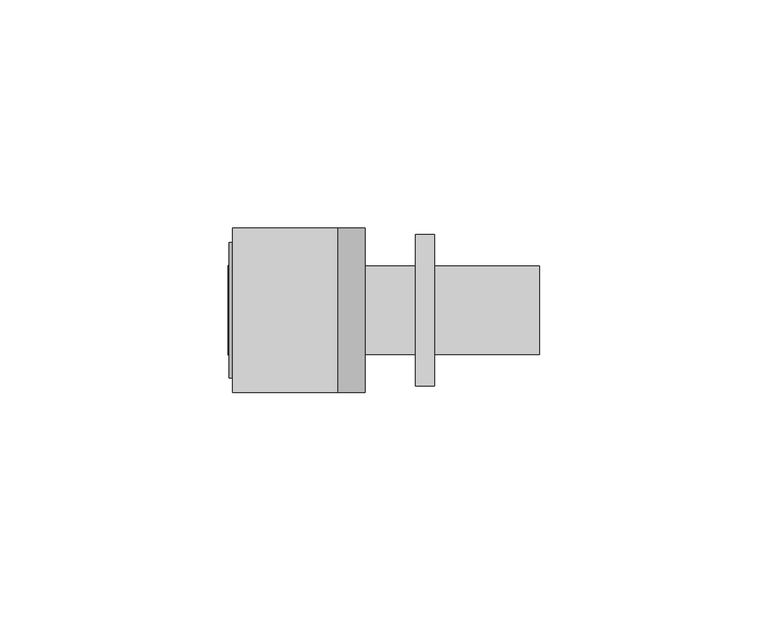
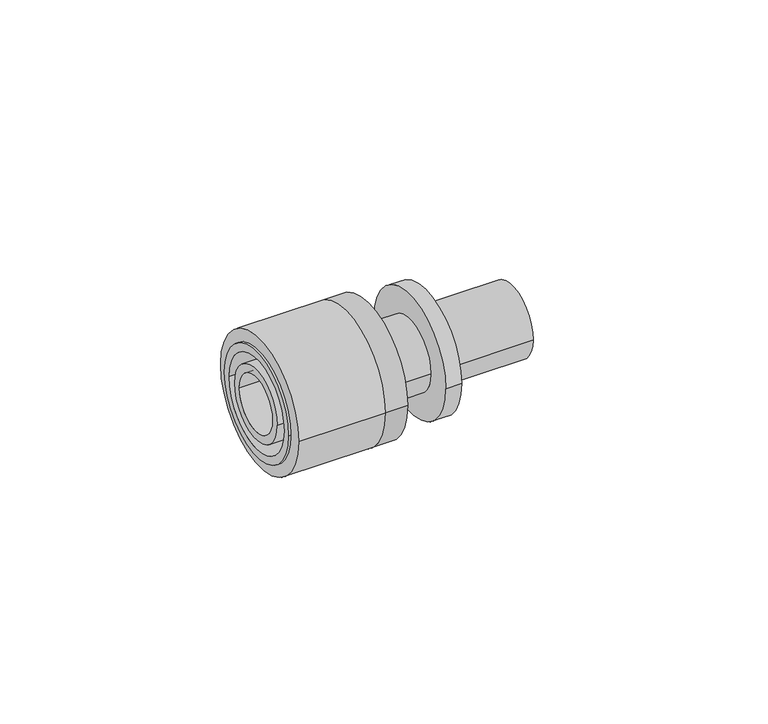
"""IFC4 building model written with IfcOpenShell, lengths in millimetres: pipe fitting geometry, FASTLOC_Adapter coupling EX+ : FSL TC EX+ AT."""

from ifc_helpers import new_model, si_unit, point, frame, origin, origin_2d, place, context, project, spatial, polyline, circle_curve, trimmed, segment, composite_curve, outline, extrude, source, transform, mapped, element, save
from ifc_brep_helpers import plane_surface, cylinder_surface, revolved_surface, advanced_brep


def pipe_fitting_c244d94c(model_context):
    return source(origin(), model_context, "Body", "SolidModel", [
        extrude(outline(composite_curve([segment(trimmed(circle_curve(origin_2d(), 18.0), [point((18.0, 0.0))], [point((-18.0, 0.0))], False, "CARTESIAN"), True, "CONTINUOUS"), segment(trimmed(circle_curve(origin_2d(), 18.0), [point((-18.0, 0.0))], [point((18.0, 0.0))], False, "CARTESIAN"), True, "CONTINUOUS")], self_intersect=False), holes=[composite_curve([segment(trimmed(circle_curve(origin_2d(), 13.5), [point((13.5, 0.0))], [point((-13.5, 0.0))], True, "CARTESIAN"), True, "CONTINUOUS"), segment(trimmed(circle_curve(origin_2d(), 13.5), [point((-13.5, 0.0))], [point((13.5, 0.0))], True, "CARTESIAN"), True, "CONTINUOUS")], self_intersect=False)]), frame((-27.6, 0.0, 0.0), z_axis=(1.0, 0.0, 0.0), x_axis=(0.0, 1.0, 0.0)), (0.0, 0.0, 1.0), 23.0),
        advanced_brep(
        [(-4.6, -18.0, 0.0), (-4.6, 18.0, 0.0), (1.4, 18.0, 0.0), (1.4, -18.0, 0.0), (-28.4, -14.85, 0.0), (-28.4, 14.85, 0.0), (-4.6, 14.85, 0.0), (-4.6, -14.85, 0.0), (1.4, -12.65, 0.0), (1.4, 12.65, 0.0), (-28.4, 12.65, 0.0), (-28.4, -12.65, 0.0)],
        [
            (0, 1, circle_curve(frame((-4.6, 0.0, 0.0), z_axis=(1.0, 0.0, 0.0), x_axis=(0.0, 1.0, 0.0)), 18.0)),
            (1, 2),
            (2, 3, circle_curve(frame((1.4, 0.0, 0.0), z_axis=(-1.0, 0.0, 0.0), x_axis=(0.0, 1.0, 0.0)), 18.0)),
            (3, 0),
            (4, 5, circle_curve(frame((-28.4, 0.0, 0.0), z_axis=(1.0, 0.0, 0.0), x_axis=(0.0, 1.0, 0.0)), 14.85)),
            (5, 6),
            (6, 7, circle_curve(frame((-4.6, 0.0, 0.0), z_axis=(-1.0, 0.0, 0.0), x_axis=(0.0, 1.0, 0.0)), 14.85)),
            (7, 4),
            (8, 9, circle_curve(frame((1.4, 0.0, 0.0), z_axis=(1.0, 0.0, 0.0), x_axis=(0.0, 1.0, 0.0)), 12.65)),
            (9, 10),
            (10, 11, circle_curve(frame((-28.4, 0.0, 0.0), z_axis=(-1.0, 0.0, 0.0), x_axis=(0.0, 1.0, 0.0)), 12.65)),
            (11, 8),
            (1, 0, circle_curve(frame((-4.6, 0.0, 0.0), z_axis=(1.0, 0.0, 0.0), x_axis=(0.0, -1.0, 0.0)), 18.0)),
            (3, 2, circle_curve(frame((1.4, 0.0, 0.0), z_axis=(-1.0, 0.0, 0.0), x_axis=(0.0, -1.0, 0.0)), 18.0)),
            (6, 7, circle_curve(frame((-4.6, 0.0, 0.0), z_axis=(1.0, 0.0, 0.0), x_axis=(0.0, -1.0, 0.0)), 14.85)),
            (5, 4, circle_curve(frame((-28.4, 0.0, 0.0), z_axis=(1.0, 0.0, 0.0), x_axis=(0.0, -1.0, 0.0)), 14.85)),
            (10, 11, circle_curve(frame((-28.4, 0.0, 0.0), z_axis=(1.0, 0.0, 0.0), x_axis=(0.0, -1.0, 0.0)), 12.65)),
            (9, 8, circle_curve(frame((1.4, 0.0, 0.0), z_axis=(1.0, 0.0, 0.0), x_axis=(0.0, -1.0, 0.0)), 12.65)),
        ],
        [
            cylinder_surface(frame((1.4, 0.0, 0.0), z_axis=(-1.0, 0.0, 0.0), x_axis=(0.0, 1.0, 0.0)), 18.0),
            cylinder_surface(frame((1.4, 0.0, 0.0), z_axis=(-1.0, 0.0, 0.0), x_axis=(0.0, 1.0, 0.0)), 14.85),
            revolved_surface(polyline([(-28.4, 12.65, 0.0), (1.4, 12.65, 0.0)]), (1.4, 0.0, 0.0), (-1.0, 0.0, 0.0)),
            cylinder_surface(frame((1.4, 0.0, 0.0), z_axis=(-1.0, 0.0, 0.0), x_axis=(0.0, -1.0, 0.0)), 18.0),
            plane_surface(frame((-4.6, 0.0, 0.0), z_axis=(-1.0, 0.0, 0.0), x_axis=(0.0, -1.0, 0.0))),
            cylinder_surface(frame((1.4, 0.0, 0.0), z_axis=(-1.0, 0.0, 0.0), x_axis=(0.0, -1.0, 0.0)), 14.85),
            plane_surface(frame((-28.4, 0.0, 0.0), z_axis=(-1.0, 0.0, 0.0), x_axis=(0.0, -1.0, 0.0))),
            revolved_surface(polyline([(-28.4, -12.65, 0.0), (1.4, -12.65, 0.0)]), (1.4, 0.0, 0.0), (-1.0, 0.0, 0.0)),
            plane_surface(frame((1.4, 0.0, 0.0), z_axis=(1.0, 0.0, 0.0), x_axis=(0.0, -1.0, 0.0))),
        ],
        [
            (0, [[1, 2, 3, 4]]),
            (1, [[5, 6, 7, 8]]),
            (2, [[9, 10, 11, 12]]),
            (3, [[13, -4, 14, -2]]),
            (4, [[-13, -1], [15, -7]]),
            (5, [[16, -8, -15, -6]]),
            (6, [[-16, -5], [17, -11]]),
            (7, [[18, -12, -17, -10]]),
            (8, [[-14, -3], [-18, -9]]),
        ],
    ),
        advanced_brep(
        [(0.0, 7.35, 0.0), (0.0, -7.35, 0.0), (39.6, -7.35, 0.0), (39.6, 7.35, 0.0), (12.4, 9.65, 0.0), (12.4, -9.65, 0.0), (0.0, -9.65, 0.0), (0.0, 9.65, 0.0), (16.6, 16.55, 0.0), (16.6, -16.55, 0.0), (12.4, -16.55, 0.0), (12.4, 16.55, 0.0), (39.6, 9.65, 0.0), (39.6, -9.65, 0.0), (16.6, -9.65, 0.0), (16.6, 9.65, 0.0)],
        [
            (0, 1, circle_curve(frame((0.0, 0.0, 0.0), z_axis=(-1.0, 0.0, 0.0), x_axis=(0.0, -1.0, 0.0)), 7.35)),
            (1, 2),
            (2, 3, circle_curve(frame((39.6, 0.0, 0.0), z_axis=(1.0, 0.0, 0.0), x_axis=(0.0, -1.0, 0.0)), 7.35)),
            (3, 0),
            (4, 5, circle_curve(frame((12.4, 0.0, 0.0), z_axis=(-1.0, 0.0, 0.0), x_axis=(0.0, -1.0, 0.0)), 9.65)),
            (5, 6),
            (6, 7, circle_curve(frame((0.0, 0.0, 0.0), z_axis=(1.0, 0.0, 0.0), x_axis=(0.0, -1.0, 0.0)), 9.65)),
            (7, 4),
            (8, 9, circle_curve(frame((16.6, 0.0, 0.0), z_axis=(-1.0, 0.0, 0.0), x_axis=(0.0, -1.0, 0.0)), 16.55)),
            (9, 10),
            (10, 11, circle_curve(frame((12.4, 0.0, 0.0), z_axis=(1.0, 0.0, 0.0), x_axis=(0.0, -1.0, 0.0)), 16.55)),
            (11, 8),
            (12, 13, circle_curve(frame((39.6, 0.0, 0.0), z_axis=(-1.0, 0.0, 0.0), x_axis=(0.0, -1.0, 0.0)), 9.65)),
            (13, 14),
            (14, 15, circle_curve(frame((16.6, 0.0, 0.0), z_axis=(1.0, 0.0, 0.0), x_axis=(0.0, -1.0, 0.0)), 9.65)),
            (15, 12),
            (1, 0, circle_curve(frame((0.0, 0.0, 0.0), z_axis=(-1.0, 0.0, 0.0), x_axis=(0.0, 1.0, 0.0)), 7.35)),
            (3, 2, circle_curve(frame((39.6, 0.0, 0.0), z_axis=(1.0, 0.0, 0.0), x_axis=(0.0, 1.0, 0.0)), 7.35)),
            (6, 7, circle_curve(frame((0.0, 0.0, 0.0), z_axis=(-1.0, 0.0, 0.0), x_axis=(0.0, 1.0, 0.0)), 9.65)),
            (5, 4, circle_curve(frame((12.4, 0.0, 0.0), z_axis=(-1.0, 0.0, 0.0), x_axis=(0.0, 1.0, 0.0)), 9.65)),
            (10, 11, circle_curve(frame((12.4, 0.0, 0.0), z_axis=(-1.0, 0.0, 0.0), x_axis=(0.0, 1.0, 0.0)), 16.55)),
            (9, 8, circle_curve(frame((16.6, 0.0, 0.0), z_axis=(-1.0, 0.0, 0.0), x_axis=(0.0, 1.0, 0.0)), 16.55)),
            (14, 15, circle_curve(frame((16.6, 0.0, 0.0), z_axis=(-1.0, 0.0, 0.0), x_axis=(0.0, 1.0, 0.0)), 9.65)),
            (13, 12, circle_curve(frame((39.6, 0.0, 0.0), z_axis=(-1.0, 0.0, 0.0), x_axis=(0.0, 1.0, 0.0)), 9.65)),
        ],
        [
            revolved_surface(polyline([(39.6, -7.35, 0.0), (0.0, -7.35, 0.0)]), (0.0, 0.0, 0.0), (1.0, 0.0, 0.0)),
            cylinder_surface(frame((0.0, 0.0, 0.0), z_axis=(1.0, 0.0, 0.0), x_axis=(0.0, -1.0, 0.0)), 9.65),
            cylinder_surface(frame((0.0, 0.0, 0.0), z_axis=(1.0, 0.0, 0.0), x_axis=(0.0, -1.0, 0.0)), 16.55),
            revolved_surface(polyline([(39.6, 7.35, 0.0), (0.0, 7.35, 0.0)]), (0.0, 0.0, 0.0), (1.0, 0.0, 0.0)),
            plane_surface(frame((0.0, 0.0, 0.0), z_axis=(-1.0, 0.0, 0.0), x_axis=(0.0, 1.0, 0.0))),
            cylinder_surface(frame((0.0, 0.0, 0.0), z_axis=(1.0, 0.0, 0.0), x_axis=(0.0, 1.0, 0.0)), 9.65),
            plane_surface(frame((12.4, 0.0, 0.0), z_axis=(-1.0, 0.0, 0.0), x_axis=(0.0, 1.0, 0.0))),
            cylinder_surface(frame((0.0, 0.0, 0.0), z_axis=(1.0, 0.0, 0.0), x_axis=(0.0, 1.0, 0.0)), 16.55),
            plane_surface(frame((16.6, 0.0, 0.0), z_axis=(1.0, 0.0, 0.0), x_axis=(0.0, 1.0, 0.0))),
            plane_surface(frame((39.6, 0.0, 0.0), z_axis=(1.0, 0.0, 0.0), x_axis=(0.0, 1.0, 0.0))),
        ],
        [
            (0, [[1, 2, 3, 4]]),
            (1, [[5, 6, 7, 8]]),
            (2, [[9, 10, 11, 12]]),
            (1, [[13, 14, 15, 16]]),
            (3, [[17, -4, 18, -2]]),
            (4, [[19, -7], [-17, -1]]),
            (5, [[20, -8, -19, -6]]),
            (6, [[21, -11], [-20, -5]]),
            (7, [[22, -12, -21, -10]]),
            (8, [[-22, -9], [23, -15]]),
            (5, [[24, -16, -23, -14]]),
            (9, [[-24, -13], [-18, -3]]),
        ],
    ),
        advanced_brep(
        [(-4.6, 9.85, 0.0), (-4.6, -9.85, 0.0), (-28.6, -9.85, 0.0), (-28.6, 9.85, 0.0), (-1.8, 11.35, 0.0), (-1.8, -11.35, 0.0), (-4.6, -11.35, 0.0), (-4.6, 11.35, 0.0), (0.0, 9.85, 0.0), (0.0, -9.85, 0.0), (-1.8, -9.85, 0.0), (-1.8, 9.85, 0.0), (-28.6, 7.6, 0.0), (-28.6, -7.6, 0.0), (0.0, -7.6, 0.0), (0.0, 7.6, 0.0)],
        [
            (0, 1, circle_curve(frame((-4.6, 0.0, 0.0), z_axis=(-1.0, 0.0, 0.0), x_axis=(0.0, -1.0, 0.0)), 9.85)),
            (1, 2),
            (2, 3, circle_curve(frame((-28.6, 0.0, 0.0), z_axis=(1.0, 0.0, 0.0), x_axis=(0.0, -1.0, 0.0)), 9.85)),
            (3, 0),
            (4, 5, circle_curve(frame((-1.8, 0.0, 0.0), z_axis=(-1.0, 0.0, 0.0), x_axis=(0.0, -1.0, 0.0)), 11.35)),
            (5, 6),
            (6, 7, circle_curve(frame((-4.6, 0.0, 0.0), z_axis=(1.0, 0.0, 0.0), x_axis=(0.0, -1.0, 0.0)), 11.35)),
            (7, 4),
            (8, 9, circle_curve(frame((0.0, 0.0, 0.0), z_axis=(-1.0, 0.0, 0.0), x_axis=(0.0, -1.0, 0.0)), 9.85)),
            (9, 10),
            (10, 11, circle_curve(frame((-1.8, 0.0, 0.0), z_axis=(1.0, 0.0, 0.0), x_axis=(0.0, -1.0, 0.0)), 9.85)),
            (11, 8),
            (12, 13, circle_curve(frame((-28.6, 0.0, 0.0), z_axis=(-1.0, 0.0, 0.0), x_axis=(0.0, -1.0, 0.0)), 7.6)),
            (13, 14),
            (14, 15, circle_curve(frame((0.0, 0.0, 0.0), z_axis=(1.0, 0.0, 0.0), x_axis=(0.0, -1.0, 0.0)), 7.6)),
            (15, 12),
            (2, 3, circle_curve(frame((-28.6, 0.0, 0.0), z_axis=(-1.0, 0.0, 0.0), x_axis=(0.0, 1.0, 0.0)), 9.85)),
            (12, 13, circle_curve(frame((-28.6, 0.0, 0.0), z_axis=(1.0, 0.0, 0.0), x_axis=(0.0, 1.0, 0.0)), 7.6)),
            (1, 0, circle_curve(frame((-4.6, 0.0, 0.0), z_axis=(-1.0, 0.0, 0.0), x_axis=(0.0, 1.0, 0.0)), 9.85)),
            (6, 7, circle_curve(frame((-4.6, 0.0, 0.0), z_axis=(-1.0, 0.0, 0.0), x_axis=(0.0, 1.0, 0.0)), 11.35)),
            (5, 4, circle_curve(frame((-1.8, 0.0, 0.0), z_axis=(-1.0, 0.0, 0.0), x_axis=(0.0, 1.0, 0.0)), 11.35)),
            (10, 11, circle_curve(frame((-1.8, 0.0, 0.0), z_axis=(-1.0, 0.0, 0.0), x_axis=(0.0, 1.0, 0.0)), 9.85)),
            (9, 8, circle_curve(frame((0.0, 0.0, 0.0), z_axis=(-1.0, 0.0, 0.0), x_axis=(0.0, 1.0, 0.0)), 9.85)),
            (14, 15, circle_curve(frame((0.0, 0.0, 0.0), z_axis=(-1.0, 0.0, 0.0), x_axis=(0.0, 1.0, 0.0)), 7.6)),
        ],
        [
            cylinder_surface(frame((0.0, 0.0, 0.0), z_axis=(1.0, 0.0, 0.0), x_axis=(0.0, -1.0, 0.0)), 9.85),
            cylinder_surface(frame((0.0, 0.0, 0.0), z_axis=(1.0, 0.0, 0.0), x_axis=(0.0, -1.0, 0.0)), 11.35),
            revolved_surface(polyline([(0.0, -7.6, 0.0), (-28.6, -7.6, 0.0)]), (0.0, 0.0, 0.0), (1.0, 0.0, 0.0)),
            plane_surface(frame((-28.6, 0.0, 0.0), z_axis=(-1.0, 0.0, 0.0), x_axis=(0.0, 1.0, 0.0))),
            cylinder_surface(frame((0.0, 0.0, 0.0), z_axis=(1.0, 0.0, 0.0), x_axis=(0.0, 1.0, 0.0)), 9.85),
            plane_surface(frame((-4.6, 0.0, 0.0), z_axis=(-1.0, 0.0, 0.0), x_axis=(0.0, 1.0, 0.0))),
            cylinder_surface(frame((0.0, 0.0, 0.0), z_axis=(1.0, 0.0, 0.0), x_axis=(0.0, 1.0, 0.0)), 11.35),
            plane_surface(frame((-1.8, 0.0, 0.0), z_axis=(1.0, 0.0, 0.0), x_axis=(0.0, 1.0, 0.0))),
            plane_surface(frame((0.0, 0.0, 0.0), z_axis=(1.0, 0.0, 0.0), x_axis=(0.0, 1.0, 0.0))),
            revolved_surface(polyline([(0.0, 7.6, 0.0), (-28.6, 7.6, 0.0)]), (0.0, 0.0, 0.0), (1.0, 0.0, 0.0)),
        ],
        [
            (0, [[1, 2, 3, 4]]),
            (1, [[5, 6, 7, 8]]),
            (0, [[9, 10, 11, 12]]),
            (2, [[13, 14, 15, 16]]),
            (3, [[17, -3], [18, -13]]),
            (4, [[19, -4, -17, -2]]),
            (5, [[20, -7], [-19, -1]]),
            (6, [[21, -8, -20, -6]]),
            (7, [[-21, -5], [22, -11]]),
            (4, [[23, -12, -22, -10]]),
            (8, [[-23, -9], [24, -15]]),
            (9, [[-18, -16, -24, -14]]),
        ],
    ),
    ])


if __name__ == "__main__":
    model = new_model("IFC4")
    model_context = context("Model", 3, world=origin())
    ifc_project = project(units=[si_unit("LENGTHUNIT", "METRE", prefix="MILLI")], contexts=[model_context])
    site = spatial("IfcSite", under=ifc_project)
    building = spatial("IfcBuilding", under=site)
    placement = place(None, origin())
    pipe_fitting_shape = pipe_fitting_c244d94c(model_context)
    element("IfcPipeFitting", 1, ObjectType="FASTLOC_Adapter coupling EX+ : FSL TC EX+ AT", at=placement, inside=building, context=model_context, shape_type="MappedRepresentation", body=[
        mapped(pipe_fitting_shape, transform((0.0, 0.0, 0.0), x_axis=(1.0, 0.0, 0.0), y_axis=(0.0, 1.0, 0.0), z_axis=(0.0, 0.0, 1.0))),
    ])
    save(model, "model.ifc")
